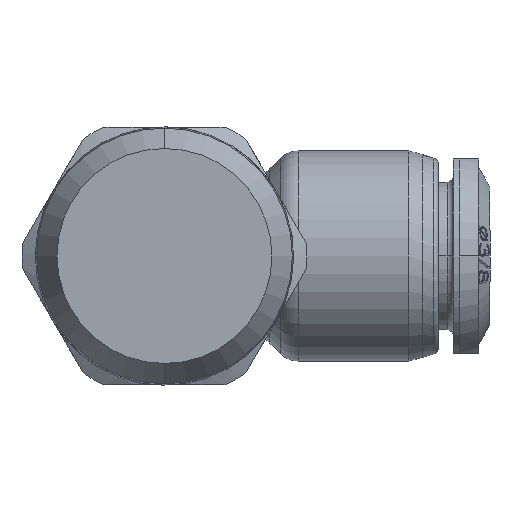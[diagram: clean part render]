
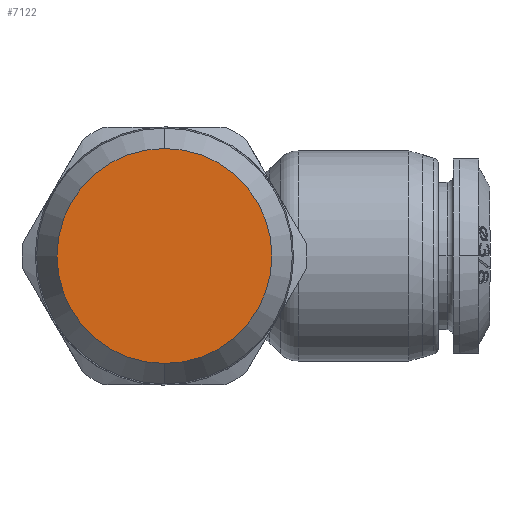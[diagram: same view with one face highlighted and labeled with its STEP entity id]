
A CAD part, left-side view. The second image highlights one B-rep face of the part: STEP entity #7122.
In plain terms, the highlighted planar face has unit normal (-1, 0, 0).
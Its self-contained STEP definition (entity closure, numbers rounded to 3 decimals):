
#2521 = EDGE_CURVE ( 'NONE', #14342, #14321, #3839, .T. ) ;
#3514 = EDGE_LOOP ( 'NONE', ( #11216, #11217 ) ) ;
#3728 = DIRECTION ( 'NONE',  ( -1., 0., 0. ) ) ;
#3839 = CIRCLE ( 'NONE', #14712, 8.75 ) ;
#6437 = FACE_OUTER_BOUND ( 'NONE', #3514, .T. ) ;
#6774 = CIRCLE ( 'NONE', #11062, 8.75 ) ;
#6887 = AXIS2_PLACEMENT_3D ( 'NONE', #12529, #12534, #12535 ) ;
#7122 = ADVANCED_FACE ( 'NONE', ( #6437 ), #12532, .T. ) ;
#9124 = CARTESIAN_POINT ( 'NONE',  ( -24.3, 0., -8.75 ) ) ;
#9158 = CARTESIAN_POINT ( 'NONE',  ( -24.3, 0., 8.75 ) ) ;
#9381 = CARTESIAN_POINT ( 'NONE',  ( -24.3, 0., 0. ) ) ;
#9382 = DIRECTION ( 'NONE',  ( -1., 0., 0. ) ) ;
#9383 = DIRECTION ( 'NONE',  ( 0., 0., 1. ) ) ;
#9685 = DIRECTION ( 'NONE',  ( 0., 0., 1. ) ) ;
#11062 = AXIS2_PLACEMENT_3D ( 'NONE', #9381, #9382, #9383 ) ;
#11216 = ORIENTED_EDGE ( 'NONE', *, *, #14571, .T. ) ;
#11217 = ORIENTED_EDGE ( 'NONE', *, *, #2521, .T. ) ;
#12529 = CARTESIAN_POINT ( 'NONE',  ( -24.3, 0., 0. ) ) ;
#12532 = PLANE ( 'NONE',  #6887 ) ;
#12534 = DIRECTION ( 'NONE',  ( -1., 0., 0. ) ) ;
#12535 = DIRECTION ( 'NONE',  ( 0., 0., 1. ) ) ;
#14279 = CARTESIAN_POINT ( 'NONE',  ( -24.3, 0., 0. ) ) ;
#14321 = VERTEX_POINT ( 'NONE', #9124 ) ;
#14342 = VERTEX_POINT ( 'NONE', #9158 ) ;
#14571 = EDGE_CURVE ( 'NONE', #14321, #14342, #6774, .T. ) ;
#14712 = AXIS2_PLACEMENT_3D ( 'NONE', #14279, #3728, #9685 ) ;
